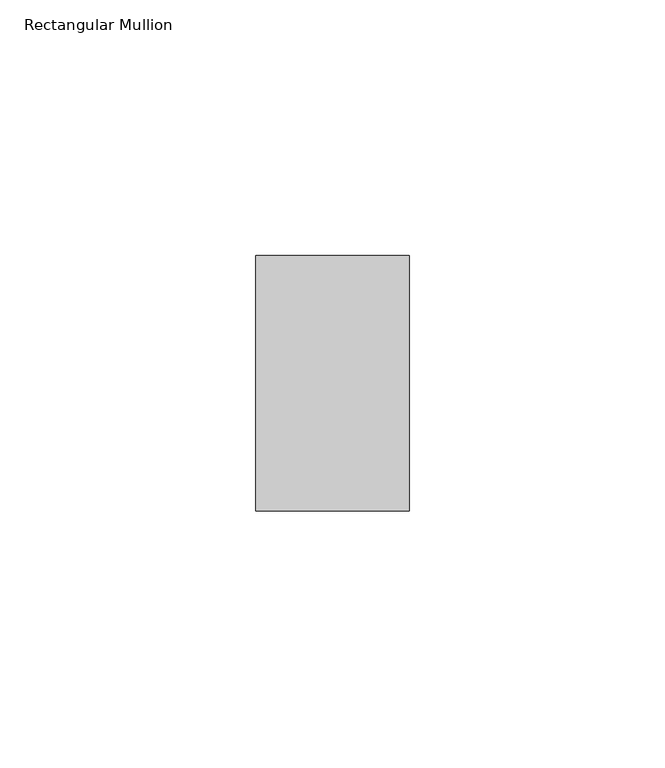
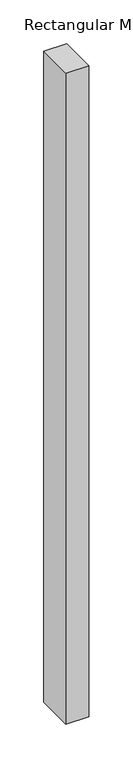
"""IFC4 building model written with IfcOpenShell, lengths in millimetres: member geometry, Rectangular Mullion : ARQ_TV_MULL_50x30mm."""

import ifcopenshell
import ifcopenshell.guid

model = None  # the IFC model being written
_history = None  # IfcOwnerHistory: only IFC2X3 demands one
_inside = {}  # id of a spatial element -> (the spatial element, [elements in it])
_under = {}  # id of a project, library or spatial element -> (it, [spatial elements below it])
_declared = {}  # id of a project -> (the project, [libraries it declares])
_typed = {}  # id of a type object -> (the type object, [elements of that type])
_made_of = {}  # id of a material, layer set ... -> (it, [elements and type objects made of it])


def new_model(schema):
    """Start an empty IFC model of exactly this schema.

    Asked for "IFC4X3", IfcOpenShell would pick the latest addendum, in which some entities
    have other attributes; the version numbers below select the first issue.
    IFC2X3 requires an IfcOwnerHistory on every rooted entity: one is made here for all.
    """
    global model, _history
    if schema == "IFC4X3":
        model = ifcopenshell.file(schema_version=(4, 3, 0, 0))
    else:
        model = ifcopenshell.file(schema=schema)
    _inside.clear()
    _under.clear()
    _declared.clear()
    _typed.clear()
    _made_of.clear()
    _history = None
    if model.schema == "IFC2X3":
        org = make("IfcOrganization", Name="unknown")
        user = make(
            "IfcPersonAndOrganization",
            ThePerson=make("IfcPerson", FamilyName="unknown"),
            TheOrganization=org,
        )
        app = make(
            "IfcApplication",
            ApplicationDeveloper=org,
            Version="unknown",
            ApplicationFullName="unknown",
            ApplicationIdentifier="unknown",
        )
        _history = make(
            "IfcOwnerHistory",
            OwningUser=user,
            OwningApplication=app,
            ChangeAction="ADDED",
            CreationDate=0,
        )
    return model


def make(cls, **values):
    """One entity of the class cls with the attributes given. An attribute that is None is left unset."""
    return model.create_entity(
        cls, **{name: value for name, value in values.items() if value is not None}
    )


def rooted(cls, **values):
    """An entity with a GlobalId (a new one), such as an element, a storey or a relation."""
    return make(cls, GlobalId=ifcopenshell.guid.new(), OwnerHistory=_history, **values)


def si_unit(unit_type, name, prefix=None):
    """IfcSIUnit, for example si_unit("LENGTHUNIT", "METRE", prefix="MILLI")."""
    return make("IfcSIUnit", UnitType=unit_type, Prefix=prefix, Name=name)


def assignment(units):
    """IfcUnitAssignment: the units of a project."""
    return None if units is None else make("IfcUnitAssignment", Units=units)


def point(xyz):
    """IfcCartesianPoint."""
    return None if xyz is None else make("IfcCartesianPoint", Coordinates=xyz)


def direction(xyz):
    """IfcDirection."""
    return None if xyz is None else make("IfcDirection", DirectionRatios=xyz)


def frame(location, z_axis=None, x_axis=None):
    """IfcAxis2Placement3D, a coordinate frame: its origin and axes. An axis left out is left unset."""
    return make(
        "IfcAxis2Placement3D",
        Location=point(location),
        Axis=direction(z_axis),
        RefDirection=direction(x_axis),
    )


def origin():
    """The frame at (0, 0, 0) with its axes left unset."""
    return frame((0.0, 0.0, 0.0))


def place(relative_to, where):
    """IfcLocalPlacement: puts the frame where relative to a parent placement (None: the world)."""
    return make(
        "IfcLocalPlacement", PlacementRelTo=relative_to, RelativePlacement=where
    )


def context(
    kind, dimensions, precision=None, world=None, true_north=None, identifier=None
):
    """IfcGeometricRepresentationContext, for example the 3D "Model" context."""
    return make(
        "IfcGeometricRepresentationContext",
        ContextIdentifier=identifier,
        ContextType=kind,
        CoordinateSpaceDimension=dimensions,
        Precision=precision,
        WorldCoordinateSystem=world,
        TrueNorth=true_north,
    )


def project(units=None, contexts=None):
    """IfcProject with its units and contexts."""
    return rooted(
        "IfcProject",
        Name="project",
        RepresentationContexts=contexts,
        UnitsInContext=assignment(units),
    )


def spatial(cls, under=None, at=None, **own):
    """A site, building, storey or space (cls), placed at a placement, below another one or the project."""
    s = rooted(cls, ObjectPlacement=at, **own)
    if under is not None:
        _under.setdefault(under.id(), (under, []))[1].append(s)
    return s


def polyline(points):
    """IfcPolyline through the points."""
    return make("IfcPolyline", Points=[point(p) for p in points])


def outline(outer, holes=None, kind="AREA"):
    """IfcArbitraryClosedProfileDef: a profile drawn as a closed curve; with holes, ...WithVoids."""
    if holes is None:
        return make("IfcArbitraryClosedProfileDef", ProfileType=kind, OuterCurve=outer)
    return make(
        "IfcArbitraryProfileDefWithVoids",
        ProfileType=kind,
        OuterCurve=outer,
        InnerCurves=holes,
    )


def extrude(swept, where, along, depth):
    """IfcExtrudedAreaSolid: the profile swept, set in the frame where, extruded along a direction by depth."""
    return make(
        "IfcExtrudedAreaSolid",
        SweptArea=swept,
        Position=where,
        ExtrudedDirection=direction(along),
        Depth=depth,
    )


def shape(context_of_items, identifier, shape_type, items):
    """IfcShapeRepresentation: the items that make up one representation, for example the "Body"."""
    return make(
        "IfcShapeRepresentation",
        ContextOfItems=context_of_items,
        RepresentationIdentifier=identifier,
        RepresentationType=shape_type,
        Items=items,
    )


def source(mapping_origin, context_of_items, identifier, shape_type, items):
    """IfcRepresentationMap: a shape defined once, which mapped items show again and again."""
    return make(
        "IfcRepresentationMap",
        MappingOrigin=mapping_origin,
        MappedRepresentation=shape(context_of_items, identifier, shape_type, items),
    )


def transform(
    local_origin,
    x_axis=None,
    y_axis=None,
    z_axis=None,
    scale=None,
    scale2=None,
    scale3=None,
    uniform=True,
):
    """IfcCartesianTransformationOperator3D, or its non-uniform kind. x_axis, y_axis, z_axis: its Axis1, 2, 3."""
    if uniform:
        return make(
            "IfcCartesianTransformationOperator3D",
            Axis1=direction(x_axis),
            Axis2=direction(y_axis),
            LocalOrigin=point(local_origin),
            Scale=scale,
            Axis3=direction(z_axis),
        )
    return make(
        "IfcCartesianTransformationOperator3DnonUniform",
        Axis1=direction(x_axis),
        Axis2=direction(y_axis),
        LocalOrigin=point(local_origin),
        Scale=scale,
        Axis3=direction(z_axis),
        Scale2=scale2,
        Scale3=scale3,
    )


def mapped(mapping_source, mapping_target):
    """IfcMappedItem: shows the shape of a source again, moved by a transform."""
    return make(
        "IfcMappedItem", MappingSource=mapping_source, MappingTarget=mapping_target
    )


def made_of(thing, what):
    """Note that an element or type object is made of a material, layer set ...; save() writes the relation."""
    if what is not None:
        _made_of.setdefault(what.id(), (what, []))[1].append(thing)
    return thing


def element(
    cls,
    number,
    at=None,
    inside=None,
    cuts=None,
    type_object=None,
    material=None,
    context=None,
    identifier="Body",
    shape_type=None,
    held_by="IfcProductDefinitionShape",
    body=None,
    shapes=None,
    **own,
):
    """One element of the class cls, such as IfcWall. Its Tag is "e" and its number.

    at: its placement. inside: the storey or other place that contains it. cuts: it is an
    opening in that element (IfcRelVoidsElement). A single representation is given by context,
    identifier, shape_type and body (its items); several are given by shapes. held_by: the class
    of the entity that holds the representations. save() writes the other relations.
    """
    e = rooted(cls, Tag="e%d" % number, ObjectPlacement=at, **own)
    if body is not None:
        shapes = [shape(context, identifier, shape_type, body)]
    if shapes is not None:
        e.Representation = make(held_by, Representations=shapes)
    if inside is not None:
        _inside.setdefault(inside.id(), (inside, []))[1].append(e)
    if cuts is not None:
        rooted(
            "IfcRelVoidsElement", RelatingBuildingElement=cuts, RelatedOpeningElement=e
        )
    if type_object is not None:
        _typed.setdefault(type_object.id(), (type_object, []))[1].append(e)
    return made_of(e, material)


def aggregate(whole, parts):
    """IfcRelAggregates: a whole, such as a stair, and the parts it consists of."""
    return rooted("IfcRelAggregates", RelatingObject=whole, RelatedObjects=parts)


def save(model, path):
    """Write the relations noted so far, then the file.

    IfcRelAggregates (storeys below a building ...), IfcRelContainedInSpatialStructure (elements
    in a storey), IfcRelDefinesByType, IfcRelAssociatesMaterial and IfcRelDeclares: one each for
    every whole, place, type object, material and project.
    """
    for whole, parts in _under.values():
        aggregate(whole, parts)
    for where, things in _inside.values():
        rooted(
            "IfcRelContainedInSpatialStructure",
            RelatedElements=things,
            RelatingStructure=where,
        )
    for kind, things in _typed.values():
        rooted("IfcRelDefinesByType", RelatedObjects=things, RelatingType=kind)
    for what, things in _made_of.values():
        rooted("IfcRelAssociatesMaterial", RelatedObjects=things, RelatingMaterial=what)
    for by, libraries in _declared.values():
        rooted("IfcRelDeclares", RelatingContext=by, RelatedDefinitions=libraries)
    model.write(path)


def rectangular_mullion_2cbd8fee(model_context):
    return source(origin(), model_context, "Body", "SweptSolid", [
        extrude(outline(polyline([(0.0, 25.0), (0.0, -25.0), (-30.0, -25.0), (-30.0, 25.0), (0.0, 25.0)])), frame((0.0, 0.0, -904.9558386), z_axis=(0.0, 0.0, 1.0), x_axis=(1.0, 0.0, 0.0)), (0.0, 0.0, 1.0), 904.9558386),
    ])


if __name__ == "__main__":
    model = new_model("IFC4")
    model_context = context("Model", 3, world=origin())
    ifc_project = project(units=[si_unit("LENGTHUNIT", "METRE", prefix="MILLI")], contexts=[model_context])
    site = spatial("IfcSite", under=ifc_project)
    building = spatial("IfcBuilding", under=site)
    placement = place(None, origin())
    rectangular_mullion_shape = rectangular_mullion_2cbd8fee(model_context)
    element("IfcMember", 1, ObjectType="Rectangular Mullion : ARQ_TV_MULL_50x30mm", at=placement, inside=building, context=model_context, shape_type="MappedRepresentation", body=[
        mapped(rectangular_mullion_shape, transform((0.0, 0.0, 0.0), x_axis=(1.0, 0.0, 0.0), y_axis=(0.0, 1.0, 0.0), z_axis=(0.0, 0.0, 1.0))),
    ])
    save(model, "model.ifc")
